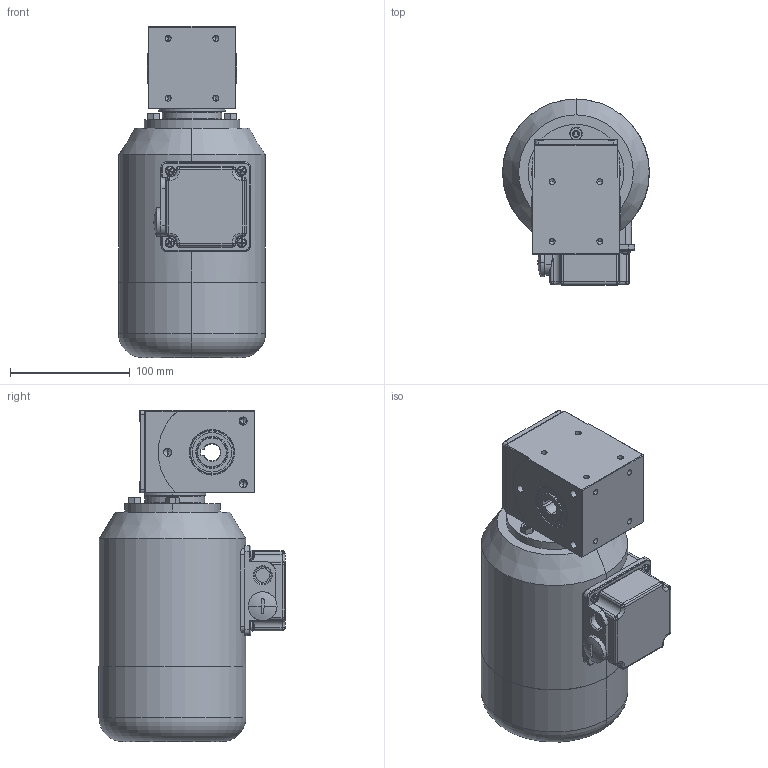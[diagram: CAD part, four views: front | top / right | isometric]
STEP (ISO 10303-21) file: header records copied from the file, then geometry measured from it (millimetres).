
FILE_DESCRIPTION (( 'STEP AP214' ), '1' );
FILE_NAME ('SN14H_120W_250W_Drehstrom-Motor_B.STEP', '2022-08-01T09:00:32', ( '' ), ( '' ), 'SwSTEP 2.0', 'SolidWorks 2021', '' );
FILE_SCHEMA (( 'AUTOMOTIVE_DESIGN' ));
Length unit declared in the file: millimetre
Products named in the file (10): 04B-D-003; SN14H_120W_250W_Drehstrom-Motor_B; NBR_WDR_25x37x7; 14H-G-001_3D-Export; socket set screw flat point_iso_ISO 4026 - M6 x 20-C; hexa csunk flathd screw_iso_ISO 14581 M5x12x12-C; 03-M-268 I 250W_2800Upm; SN14H_3D-Export; hex nut style 1 gradeab_iso_ISO - 4032 - M6 - D - C; 03BH-W-002_3D-Export
Assembly tree (17 placements, depth 3):
  SN14H_120W_250W_Drehstrom-Motor_B
    SN14H_3D-Export
      14H-G-001_3D-Export
      04B-D-003
      03BH-W-002_3D-Export
      NBR_WDR_25x37x7  x2
      hexa csunk flathd screw_iso_ISO 14581 M5x12x12-C  x4
      socket set screw flat point_iso_ISO 4026 - M6 x 20-C  x3
      hex nut style 1 gradeab_iso_ISO - 4032 - M6 - D - C  x3
    03-M-268 I 250W_2800Upm
Bounding box: 123 x 155.7 x 277 mm (x, y, z)
Volume: 2737233.2 mm3; surface area: 212352 mm2
Topology: 17 solids, 17 shells, 918 faces, 2321 edges, 1412 vertices
Faces by surface type: cylinder 338, cone 238, plane 200, torus 111, sphere 24, bspline 7
Entity records: 24317 total; most frequent: CARTESIAN_POINT 6199, DIRECTION 3925, ORIENTED_EDGE 3626, EDGE_CURVE 1813, AXIS2_PLACEMENT_3D 1645, VERTEX_POINT 1136, CIRCLE 910, EDGE_LOOP 781
